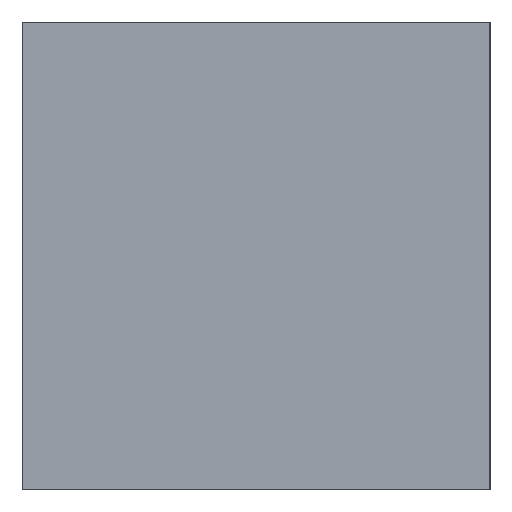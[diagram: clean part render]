
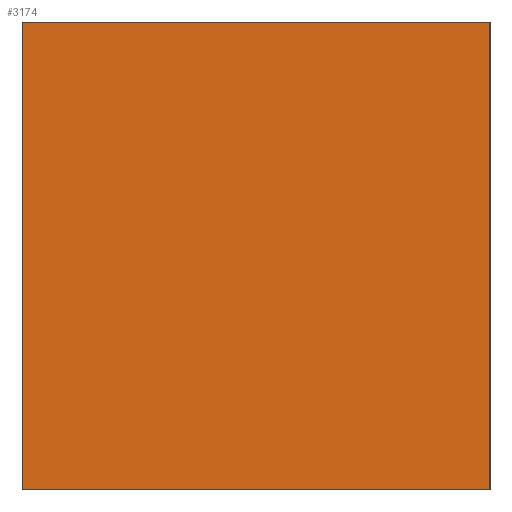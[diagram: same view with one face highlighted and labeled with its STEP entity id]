
A CAD part, left-side view. The second image highlights one B-rep face of the part: STEP entity #3174.
In plain terms, the highlighted planar face has unit normal (-1, 0, 0).
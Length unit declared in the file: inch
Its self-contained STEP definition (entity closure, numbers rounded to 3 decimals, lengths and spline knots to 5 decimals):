
#89 = EDGE_CURVE ( 'NONE', #3998, #5430, #3698, .T. ) ;
#118 = EDGE_CURVE ( 'NONE', #3451, #3998, #4613, .T. ) ;
#306 = LINE ( 'NONE', #5286, #4677 ) ;
#335 = CARTESIAN_POINT ( 'NONE',  ( 50.75059, -57.53727, 102.13856 ) ) ;
#878 = CARTESIAN_POINT ( 'NONE',  ( 50.75059, -57.53727, 102.13856 ) ) ;
#947 = DIRECTION ( 'NONE',  ( 0., 0., 1. ) ) ;
#1086 = CARTESIAN_POINT ( 'NONE',  ( 50.75059, -55.56876, 104.10707 ) ) ;
#1142 = DIRECTION ( 'NONE',  ( 0., 1., 0. ) ) ;
#1403 = ORIENTED_EDGE ( 'NONE', *, *, #2116, .T. ) ;
#1502 = DIRECTION ( 'NONE',  ( 0., 0., -1. ) ) ;
#2116 = EDGE_CURVE ( 'NONE', #5430, #4923, #306, .T. ) ;
#2393 = CARTESIAN_POINT ( 'NONE',  ( 50.75059, -55.56876, 102.13856 ) ) ;
#2502 = VECTOR ( 'NONE', #1142, 39.37008 ) ;
#2522 = DIRECTION ( 'NONE',  ( 0., -1., 0. ) ) ;
#2552 = DIRECTION ( 'NONE',  ( 0., 0., 1. ) ) ;
#2604 = DIRECTION ( 'NONE',  ( -1., 0., 0. ) ) ;
#2639 = VECTOR ( 'NONE', #2522, 39.37008 ) ;
#3097 = CARTESIAN_POINT ( 'NONE',  ( 50.75059, -56.55302, 103.12282 ) ) ;
#3174 = ADVANCED_FACE ( 'NONE', ( #3341 ), #5006, .T. ) ;
#3279 = CARTESIAN_POINT ( 'NONE',  ( 50.75059, -55.56876, 104.10707 ) ) ;
#3327 = ORIENTED_EDGE ( 'NONE', *, *, #4317, .T. ) ;
#3341 = FACE_OUTER_BOUND ( 'NONE', #5230, .T. ) ;
#3451 = VERTEX_POINT ( 'NONE', #878 ) ;
#3534 = CARTESIAN_POINT ( 'NONE',  ( 50.75059, -57.53727, 104.10707 ) ) ;
#3698 = LINE ( 'NONE', #1086, #2502 ) ;
#3841 = ORIENTED_EDGE ( 'NONE', *, *, #118, .T. ) ;
#3988 = ORIENTED_EDGE ( 'NONE', *, *, #89, .T. ) ;
#3998 = VERTEX_POINT ( 'NONE', #3534 ) ;
#4156 = AXIS2_PLACEMENT_3D ( 'NONE', #3097, #2604, #947 ) ;
#4317 = EDGE_CURVE ( 'NONE', #4923, #3451, #5058, .T. ) ;
#4613 = LINE ( 'NONE', #5003, #5308 ) ;
#4677 = VECTOR ( 'NONE', #1502, 39.37008 ) ;
#4923 = VERTEX_POINT ( 'NONE', #2393 ) ;
#5003 = CARTESIAN_POINT ( 'NONE',  ( 50.75059, -57.53727, 104.10707 ) ) ;
#5006 = PLANE ( 'NONE',  #4156 ) ;
#5058 = LINE ( 'NONE', #335, #2639 ) ;
#5230 = EDGE_LOOP ( 'NONE', ( #3988, #1403, #3327, #3841 ) ) ;
#5286 = CARTESIAN_POINT ( 'NONE',  ( 50.75059, -55.56876, 102.13856 ) ) ;
#5308 = VECTOR ( 'NONE', #2552, 39.37008 ) ;
#5430 = VERTEX_POINT ( 'NONE', #3279 ) ;
